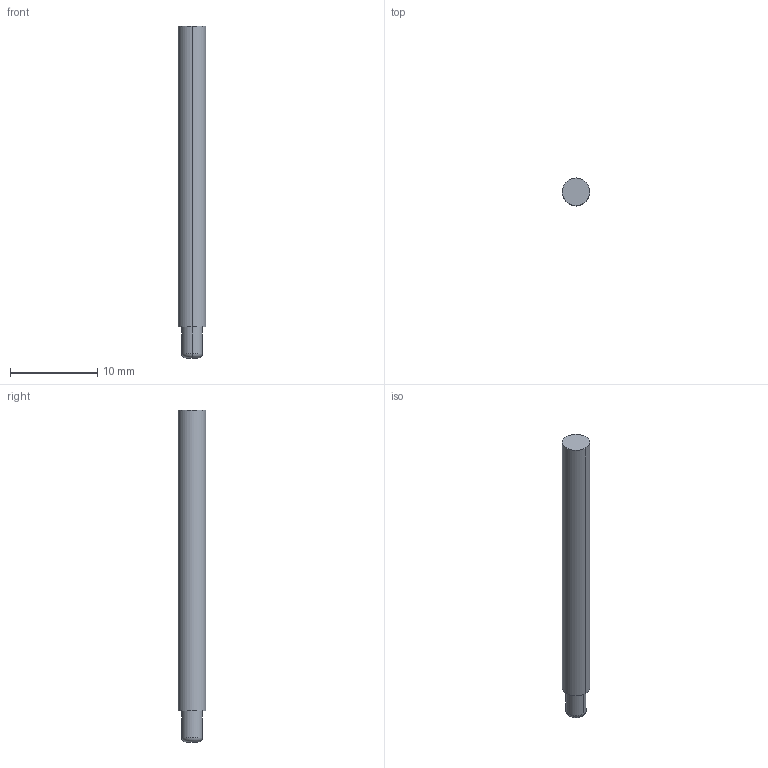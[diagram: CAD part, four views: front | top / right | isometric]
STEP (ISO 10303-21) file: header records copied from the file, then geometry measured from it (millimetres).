
FILE_DESCRIPTION((' '),'2;1');
FILE_NAME( '3MVS0938R.020AH.stp', '2026-01-21T19:26:08', (' '), ('--- Datakit www.datakit.com---'), ' Datakit CrossCadWare V2025.4 Sep 19 2025', 'Mastercam 2027', ' ');
FILE_SCHEMA(('AUTOMOTIVE_DESIGN { 1 0 10303 214 1 1 1 1 }'));
Length unit declared in the file: inch
Products named in the file (1): 3MVS0938R
Bounding box: 3.17 x 3.17 x 38.1 mm (x, y, z)
Volume: 288.9 mm3; surface area: 385.2 mm2
Topology: 1 solids, 1 shells, 9 faces, 16 edges, 10 vertices
Faces by surface type: cylinder 4, plane 3, torus 2
Entity records: 297 total; most frequent: DIRECTION 56, CARTESIAN_POINT 40, ORIENTED_EDGE 32, AXIS2_PLACEMENT_3D 26, EDGE_CURVE 16, CIRCLE 12, VERTEX_POINT 10, EDGE_LOOP 10
